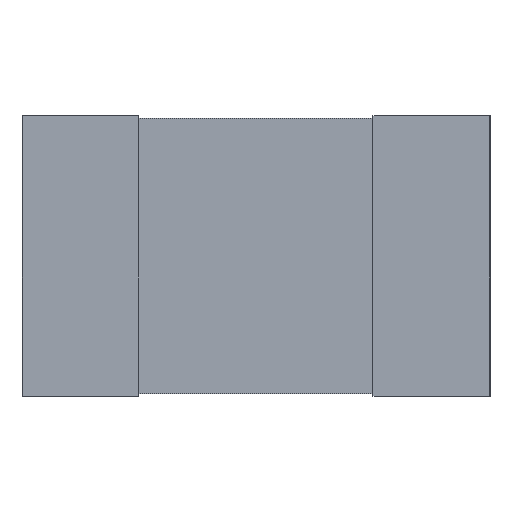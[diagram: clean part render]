
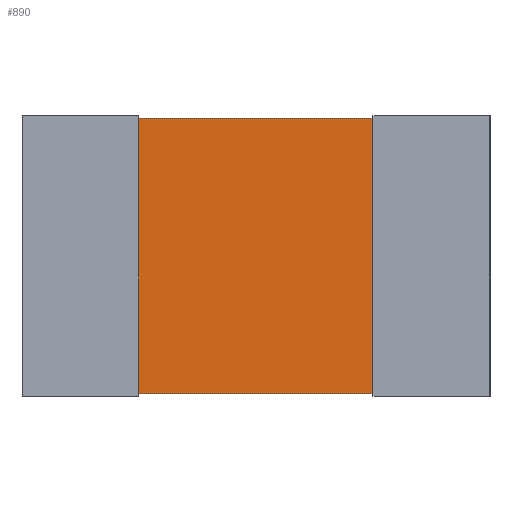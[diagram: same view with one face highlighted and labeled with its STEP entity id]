
A CAD part, top view. The second image highlights one B-rep face of the part: STEP entity #890.
In plain terms, the highlighted planar face has unit normal (0, 0, 1).
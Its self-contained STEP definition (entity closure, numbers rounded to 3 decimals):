
#217 = B_SPLINE_SURFACE_WITH_KNOTS('',1,1,(
    (#218,#219)
    ,(#220,#221
    )),.UNSPECIFIED.,.F.,.F.,.F.,(2,2),(2,2),(0.,0.381),(-1.524,0.),
  .PIECEWISE_BEZIER_KNOTS.);
#218 = CARTESIAN_POINT('',(-0.648,0.777,0.));
#219 = CARTESIAN_POINT('',(-0.648,-0.777,0.));
#220 = CARTESIAN_POINT('',(-0.648,0.777,0.389));
#221 = CARTESIAN_POINT('',(-0.648,-0.777,0.389));
#268 = PLANE('',#269);
#269 = AXIS2_PLACEMENT_3D('',#270,#271,#272);
#270 = CARTESIAN_POINT('',(-1.27,0.762,0.));
#271 = DIRECTION('',(0.,1.,0.));
#272 = DIRECTION('',(0.,0.,1.));
#297 = PLANE('',#298);
#298 = AXIS2_PLACEMENT_3D('',#299,#300,#301);
#299 = CARTESIAN_POINT('',(-1.27,-0.762,0.));
#300 = DIRECTION('',(0.,1.,0.));
#301 = DIRECTION('',(0.,0.,1.));
#492 = VERTEX_POINT('',#493);
#493 = CARTESIAN_POINT('',(-0.648,-0.762,0.381));
#511 = EDGE_CURVE('',#512,#492,#514,.T.);
#512 = VERTEX_POINT('',#513);
#513 = CARTESIAN_POINT('',(-0.648,0.762,0.381));
#514 = SURFACE_CURVE('',#515,(#518,#524),.PCURVE_S1.);
#515 = B_SPLINE_CURVE_WITH_KNOTS('',1,(#516,#517),.UNSPECIFIED.,.F.,.F.,
  (2,2),(0.,1.),.PIECEWISE_BEZIER_KNOTS.);
#516 = CARTESIAN_POINT('',(-0.648,0.762,0.381));
#517 = CARTESIAN_POINT('',(-0.648,-0.762,0.381));
#518 = PCURVE('',#217,#519);
#519 = DEFINITIONAL_REPRESENTATION('',(#520),#523);
#520 = B_SPLINE_CURVE_WITH_KNOTS('',1,(#521,#522),.UNSPECIFIED.,.F.,.F.,
  (2,2),(0.,1.),.PIECEWISE_BEZIER_KNOTS.);
#521 = CARTESIAN_POINT('',(0.374,-1.509));
#522 = CARTESIAN_POINT('',(0.374,-0.015));
#523 = ( GEOMETRIC_REPRESENTATION_CONTEXT(2) 
PARAMETRIC_REPRESENTATION_CONTEXT() REPRESENTATION_CONTEXT('2D SPACE',''
  ) );
#524 = PCURVE('',#525,#530);
#525 = PLANE('',#526);
#526 = AXIS2_PLACEMENT_3D('',#527,#528,#529);
#527 = CARTESIAN_POINT('',(-1.27,-0.762,0.381));
#528 = DIRECTION('',(0.,0.,1.));
#529 = DIRECTION('',(1.,0.,0.));
#530 = DEFINITIONAL_REPRESENTATION('',(#531),#534);
#531 = B_SPLINE_CURVE_WITH_KNOTS('',1,(#532,#533),.UNSPECIFIED.,.F.,.F.,
  (2,2),(0.,1.),.PIECEWISE_BEZIER_KNOTS.);
#532 = CARTESIAN_POINT('',(0.622,1.524));
#533 = CARTESIAN_POINT('',(0.622,0.));
#534 = ( GEOMETRIC_REPRESENTATION_CONTEXT(2) 
PARAMETRIC_REPRESENTATION_CONTEXT() REPRESENTATION_CONTEXT('2D SPACE',''
  ) );
#668 = EDGE_CURVE('',#512,#669,#671,.T.);
#669 = VERTEX_POINT('',#670);
#670 = CARTESIAN_POINT('',(0.648,0.762,0.381));
#671 = SURFACE_CURVE('',#672,(#676,#683),.PCURVE_S1.);
#672 = LINE('',#673,#674);
#673 = CARTESIAN_POINT('',(-1.27,0.762,0.381));
#674 = VECTOR('',#675,1.);
#675 = DIRECTION('',(1.,0.,0.));
#676 = PCURVE('',#268,#677);
#677 = DEFINITIONAL_REPRESENTATION('',(#678),#682);
#678 = LINE('',#679,#680);
#679 = CARTESIAN_POINT('',(0.381,0.));
#680 = VECTOR('',#681,1.);
#681 = DIRECTION('',(0.,1.));
#682 = ( GEOMETRIC_REPRESENTATION_CONTEXT(2) 
PARAMETRIC_REPRESENTATION_CONTEXT() REPRESENTATION_CONTEXT('2D SPACE',''
  ) );
#683 = PCURVE('',#525,#684);
#684 = DEFINITIONAL_REPRESENTATION('',(#685),#689);
#685 = LINE('',#686,#687);
#686 = CARTESIAN_POINT('',(0.,1.524));
#687 = VECTOR('',#688,1.);
#688 = DIRECTION('',(1.,0.));
#689 = ( GEOMETRIC_REPRESENTATION_CONTEXT(2) 
PARAMETRIC_REPRESENTATION_CONTEXT() REPRESENTATION_CONTEXT('2D SPACE',''
  ) );
#703 = B_SPLINE_SURFACE_WITH_KNOTS('',1,1,(
    (#704,#705)
    ,(#706,#707
    )),.UNSPECIFIED.,.F.,.F.,.F.,(2,2),(2,2),(0.,0.381),(-1.524,0.),
  .PIECEWISE_BEZIER_KNOTS.);
#704 = CARTESIAN_POINT('',(0.648,0.777,0.));
#705 = CARTESIAN_POINT('',(0.648,-0.777,0.));
#706 = CARTESIAN_POINT('',(0.648,0.777,0.389));
#707 = CARTESIAN_POINT('',(0.648,-0.777,0.389));
#795 = EDGE_CURVE('',#492,#796,#798,.T.);
#796 = VERTEX_POINT('',#797);
#797 = CARTESIAN_POINT('',(0.648,-0.762,0.381));
#798 = SURFACE_CURVE('',#799,(#803,#810),.PCURVE_S1.);
#799 = LINE('',#800,#801);
#800 = CARTESIAN_POINT('',(-1.27,-0.762,0.381));
#801 = VECTOR('',#802,1.);
#802 = DIRECTION('',(1.,0.,0.));
#803 = PCURVE('',#297,#804);
#804 = DEFINITIONAL_REPRESENTATION('',(#805),#809);
#805 = LINE('',#806,#807);
#806 = CARTESIAN_POINT('',(0.381,0.));
#807 = VECTOR('',#808,1.);
#808 = DIRECTION('',(0.,1.));
#809 = ( GEOMETRIC_REPRESENTATION_CONTEXT(2) 
PARAMETRIC_REPRESENTATION_CONTEXT() REPRESENTATION_CONTEXT('2D SPACE',''
  ) );
#810 = PCURVE('',#525,#811);
#811 = DEFINITIONAL_REPRESENTATION('',(#812),#816);
#812 = LINE('',#813,#814);
#813 = CARTESIAN_POINT('',(0.,0.));
#814 = VECTOR('',#815,1.);
#815 = DIRECTION('',(1.,0.));
#816 = ( GEOMETRIC_REPRESENTATION_CONTEXT(2) 
PARAMETRIC_REPRESENTATION_CONTEXT() REPRESENTATION_CONTEXT('2D SPACE',''
  ) );
#890 = ADVANCED_FACE('',(#891),#525,.T.);
#891 = FACE_BOUND('',#892,.T.);
#892 = EDGE_LOOP('',(#893,#894,#895,#896));
#893 = ORIENTED_EDGE('',*,*,#668,.F.);
#894 = ORIENTED_EDGE('',*,*,#511,.T.);
#895 = ORIENTED_EDGE('',*,*,#795,.T.);
#896 = ORIENTED_EDGE('',*,*,#897,.F.);
#897 = EDGE_CURVE('',#669,#796,#898,.T.);
#898 = SURFACE_CURVE('',#899,(#902,#908),.PCURVE_S1.);
#899 = B_SPLINE_CURVE_WITH_KNOTS('',1,(#900,#901),.UNSPECIFIED.,.F.,.F.,
  (2,2),(0.,1.),.PIECEWISE_BEZIER_KNOTS.);
#900 = CARTESIAN_POINT('',(0.648,0.762,0.381));
#901 = CARTESIAN_POINT('',(0.648,-0.762,0.381));
#902 = PCURVE('',#525,#903);
#903 = DEFINITIONAL_REPRESENTATION('',(#904),#907);
#904 = B_SPLINE_CURVE_WITH_KNOTS('',1,(#905,#906),.UNSPECIFIED.,.F.,.F.,
  (2,2),(0.,1.),.PIECEWISE_BEZIER_KNOTS.);
#905 = CARTESIAN_POINT('',(1.918,1.524));
#906 = CARTESIAN_POINT('',(1.918,0.));
#907 = ( GEOMETRIC_REPRESENTATION_CONTEXT(2) 
PARAMETRIC_REPRESENTATION_CONTEXT() REPRESENTATION_CONTEXT('2D SPACE',''
  ) );
#908 = PCURVE('',#703,#909);
#909 = DEFINITIONAL_REPRESENTATION('',(#910),#913);
#910 = B_SPLINE_CURVE_WITH_KNOTS('',1,(#911,#912),.UNSPECIFIED.,.F.,.F.,
  (2,2),(0.,1.),.PIECEWISE_BEZIER_KNOTS.);
#911 = CARTESIAN_POINT('',(0.374,-1.509));
#912 = CARTESIAN_POINT('',(0.374,-0.015));
#913 = ( GEOMETRIC_REPRESENTATION_CONTEXT(2) 
PARAMETRIC_REPRESENTATION_CONTEXT() REPRESENTATION_CONTEXT('2D SPACE',''
  ) );
